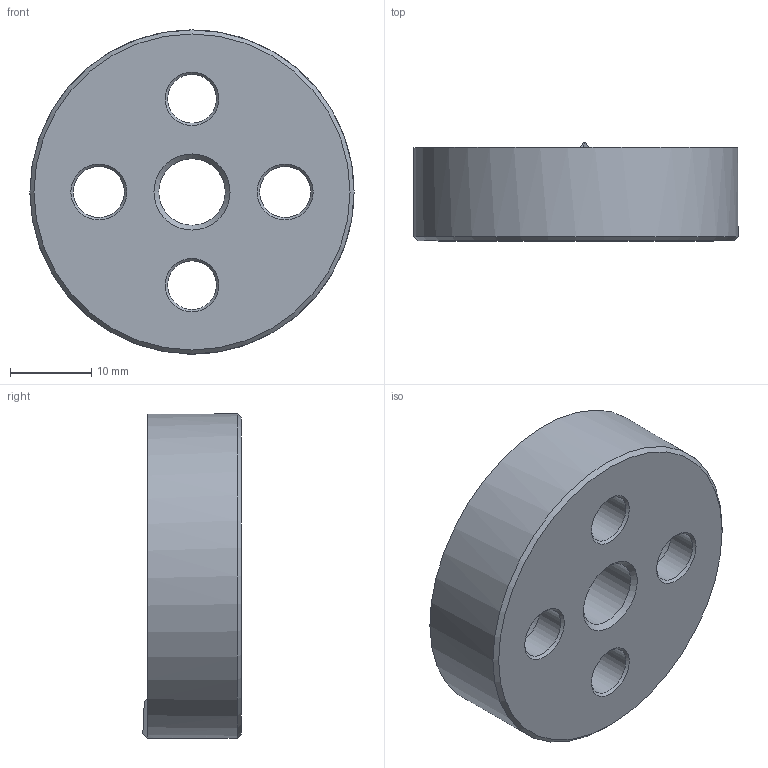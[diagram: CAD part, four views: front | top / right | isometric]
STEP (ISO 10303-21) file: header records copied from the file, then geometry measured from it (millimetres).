
FILE_DESCRIPTION( ( 'STEP AP203' ), '1' );
FILE_NAME( 'C:/Temp/Ganter_Step_05_03_2020/data/3_2/gn187_4/gn187_4_st/Serrated locking plate GN 187.4-40-60-B-ST.stp', '2020-03-13T05:25:40', ( 'License CC BY-ND 4.0' ), ( 'CADENAS' ), ' ', 'PARTsolutions', ' ' );
FILE_SCHEMA( ( 'CONFIG_CONTROL_DESIGN' ) );
Length unit declared in the file: millimetre
Products named in the file (1): _Serrated locking plate GN 187.4-40-60-B-ST
Bounding box: 40 x 12.13 x 40 mm (x, y, z)
Volume: 10833.5 mm3; surface area: 4909.4 mm2
Topology: 1 solids, 1 shells, 33 faces, 85 edges, 54 vertices
Faces by surface type: cone 12, cylinder 12, plane 9
Full cylindrical faces by diameter (mm): 6 x2, 6.3 x2, 8.2 x1, 11 x2, 40 x1
Entity records: 1044 total; most frequent: CARTESIAN_POINT 250, DIRECTION 166, ORIENTED_EDGE 128, AXIS2_PLACEMENT_3D 78, EDGE_CURVE 64, EDGE_LOOP 60, VERTEX_POINT 50, FACE_OUTER_BOUND 41
